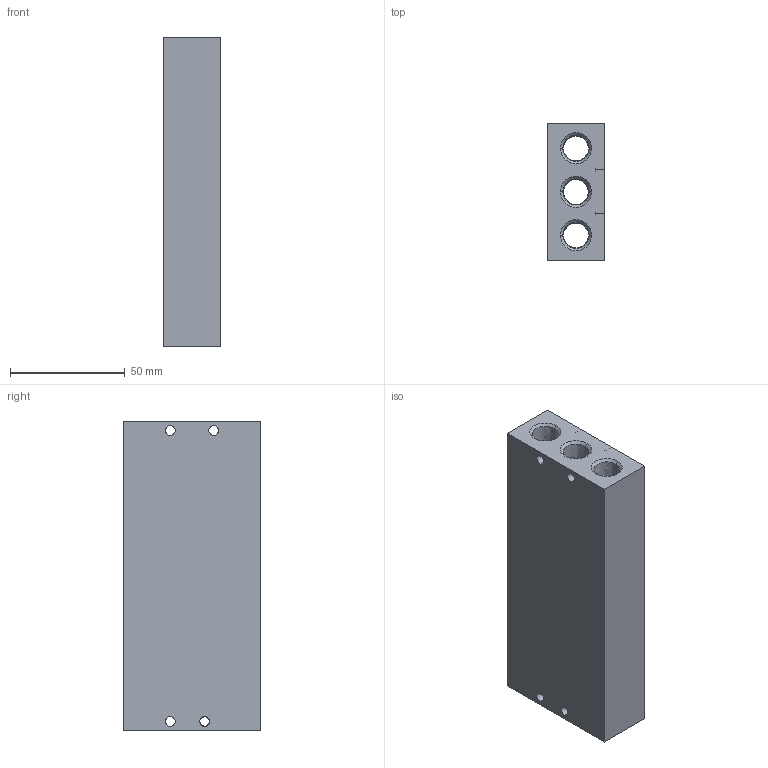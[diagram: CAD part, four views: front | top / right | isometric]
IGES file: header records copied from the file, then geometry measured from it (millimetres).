
Global section: file name: No Iges File Name specified; native system: AutoDesk Inventor R11.0; preprocessor: AutoDesk Inventor Iges Exporter R11.0; author: No Author specified; organization: No Organization specified; date: 20061201.115623; units: millimetre
Bounding box: 25 x 60 x 135 mm (x, y, z)
Volume: 148302.3 mm3; surface area: 44422.3 mm2
Topology: 1 solids, 1 shells, 219 faces, 577 edges, 345 vertices
Faces by surface type: bspline 207, revolution 6, plane 6
